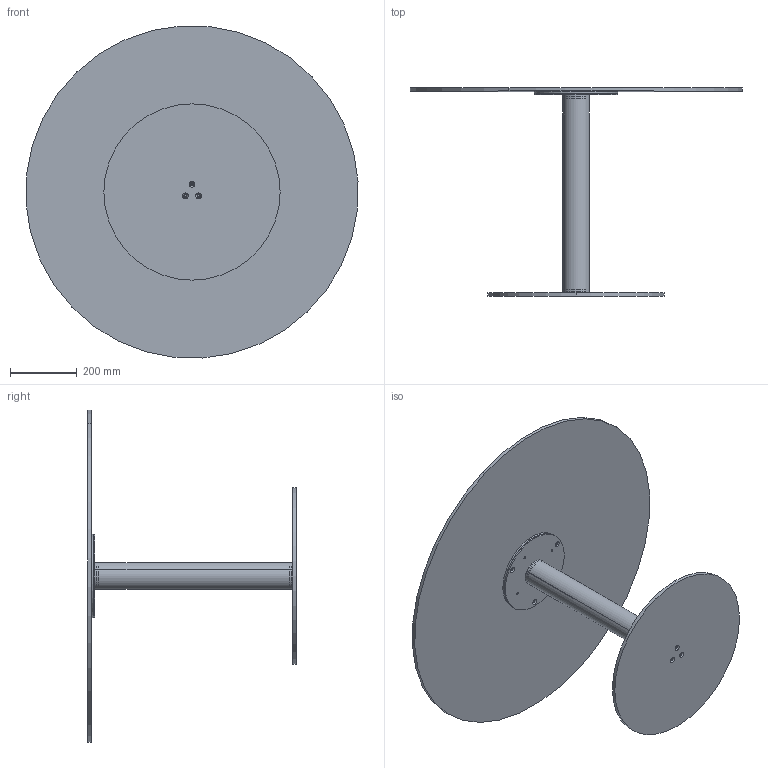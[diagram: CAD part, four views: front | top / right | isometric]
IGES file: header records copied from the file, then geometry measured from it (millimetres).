
Start section: SolidWorks IGES file using analytic representation for surfaces
Global section: file name: Y:\eforma\TECNICO\SOLIDWORKS\E-FORMA\5-TAVOLINI BISTRO\CILINDRO BISTRÒ H63\02 parts\CB35G.IGS; native system: SolidWorks 2022; preprocessor: SolidWorks 2022; author: eforma.tech; date: 240808.103954; units: millimetre
Bounding box: 997.85 x 626 x 997.85 mm (x, y, z)
Volume: 10926693.6 mm3; surface area: 2578734.5 mm2
Topology: 7 solids, 7 shells, 104 faces, 244 edges, 154 vertices
Faces by surface type: revolution 90, plane 14
